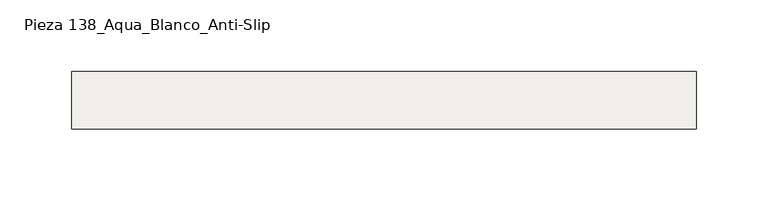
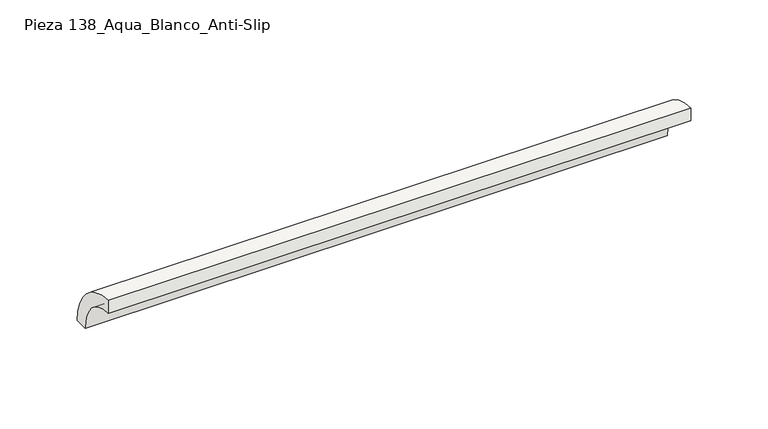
"""IFC4 building model written with IfcOpenShell, lengths in millimetres: slab geometry, ROSA GRES_138 : Pieza 138_Aqua_Blanco_Anti-Slip."""

from ifc_helpers import new_model, si_unit, point, frame, frame_2d, origin, origin_2d, place, context, project, spatial, polyline, circle_curve, trimmed, segment, composite_curve, outline, extrude, source, transform, mapped, element, save


def pieza_138_aqua_blanco_anti_slip_74fbb6ba(model_context):
    return source(origin(), model_context, "Body", "SweptSolid", [
        extrude(outline(composite_curve([segment(trimmed(circle_curve(origin_2d(), 40.0), [point((0.0, 40.0))], [point((40.0, 0.0))], False, "CARTESIAN"), True, "CONTINUOUS"), segment(polyline([(40.0, 0.0), (30.0265886, 0.0)]), True, "CONTINUOUS"), segment(trimmed(circle_curve(frame_2d((0.0044453, 0.0044453)), 30.0221435), [point((30.0265886, 0.0))], [point((0.0, 30.0265886))], True, "CARTESIAN"), True, "CONTINUOUS"), segment(polyline([(0.0, 30.0265886), (0.0, 40.0)]), True, "CONTINUOUS")], self_intersect=False)), frame((0.0, 0.0, 0.0), z_axis=(1.0, 0.0, 0.0), x_axis=(0.0, 1.0, 0.0)), (0.0, 0.0, 1.0), 434.4912573),
    ])


if __name__ == "__main__":
    model = new_model("IFC4")
    model_context = context("Model", 3, world=origin())
    ifc_project = project(units=[si_unit("LENGTHUNIT", "METRE", prefix="MILLI")], contexts=[model_context])
    site = spatial("IfcSite", under=ifc_project)
    building = spatial("IfcBuilding", under=site)
    placement = place(None, origin())
    pieza_138_aqua_blanco_anti_slip_shape = pieza_138_aqua_blanco_anti_slip_74fbb6ba(model_context)
    element("IfcSlab", 1, ObjectType="ROSA GRES_138 : Pieza 138_Aqua_Blanco_Anti-Slip", at=placement, inside=building, context=model_context, shape_type="MappedRepresentation", body=[
        mapped(pieza_138_aqua_blanco_anti_slip_shape, transform((0.0, 0.0, 0.0), x_axis=(1.0, 0.0, 0.0), y_axis=(0.0, 1.0, 0.0), z_axis=(0.0, 0.0, 1.0))),
    ])
    save(model, "model.ifc")
